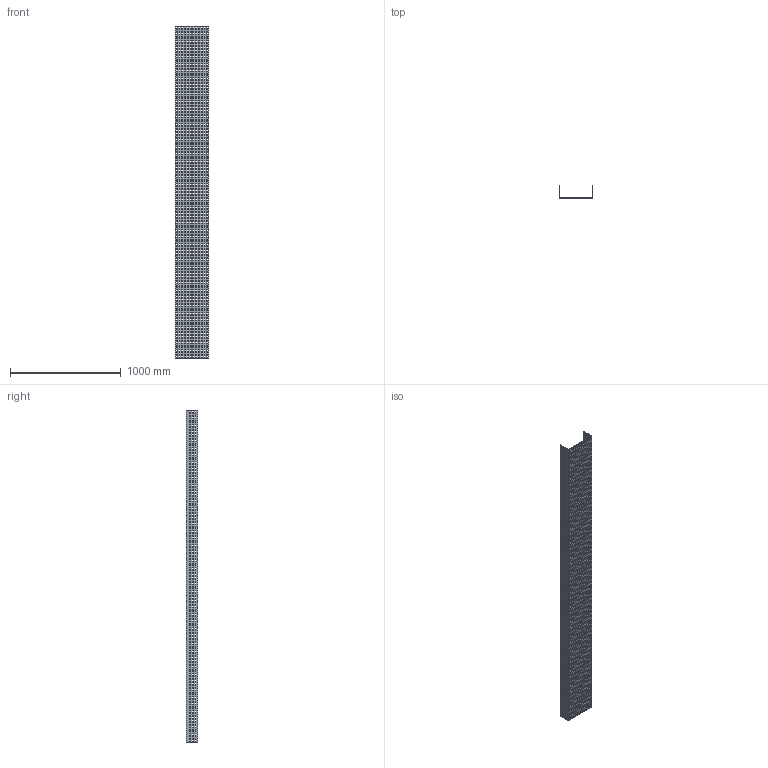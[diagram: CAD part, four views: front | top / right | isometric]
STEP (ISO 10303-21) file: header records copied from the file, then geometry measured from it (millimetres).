
FILE_DESCRIPTION (( 'STEP AP214' ), '1' );
FILE_NAME ('01B3D300.step', '2025-02-21T10:00:51', ( '' ), ( '' ), 'SwSTEP 2.0', 'SolidWorks 2023', '' );
FILE_SCHEMA (( 'AUTOMOTIVE_DESIGN' ));
Length unit declared in the file: millimetre
Products named in the file (1): 01B3D300
Bounding box: 304 x 104 x 3000 mm (x, y, z)
Volume: 4508700 mm3; surface area: 2891239 mm2
Topology: 1 solids, 1 shells, 5194 faces, 15576 edges, 10384 vertices
Faces by surface type: plane 5194
Entity records: 176567 total; most frequent: CARTESIAN_POINT 31155, ORIENTED_EDGE 31152, DIRECTION 25966, LINE 15576, VECTOR 15576, EDGE_CURVE 15576, VERTEX_POINT 10384, EDGE_LOOP 7786
